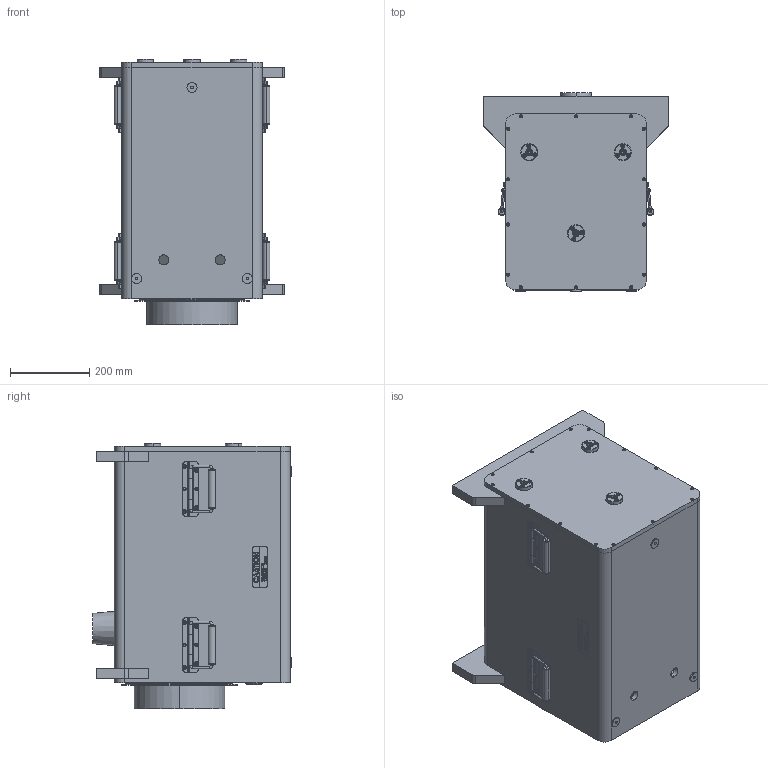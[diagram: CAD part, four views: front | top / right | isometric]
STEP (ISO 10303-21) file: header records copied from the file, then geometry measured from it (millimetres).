
FILE_DESCRIPTION (( 'STEP AP203' ), '1' );
FILE_NAME ('319-001-360_NC.STEP', '2014-10-01T15:32:30', ( '' ), ( '' ), 'SwSTEP 2.0', 'SolidWorks 2013', '' );
FILE_SCHEMA (( 'CONFIG_CONTROL_DESIGN' ));
Length unit declared in the file: inch
Products named in the file (1): 319-001-360_NC
Bounding box: 466.85 x 502.31 x 671.7 mm (x, y, z)
Volume: 45644849.5 mm3; surface area: 3707714.4 mm2
Topology: 88 solids, 88 shells, 4495 faces, 11229 edges, 7232 vertices
Faces by surface type: plane 2508, bspline 852, cylinder 745, cone 200, torus 150, sphere 40
Entity records: 173213 total; most frequent: CARTESIAN_POINT 69831, ORIENTED_EDGE 22386, DIRECTION 19022, EDGE_CURVE 11193, VERTEX_POINT 7232, LINE 6970, VECTOR 6970, AXIS2_PLACEMENT_3D 6026
